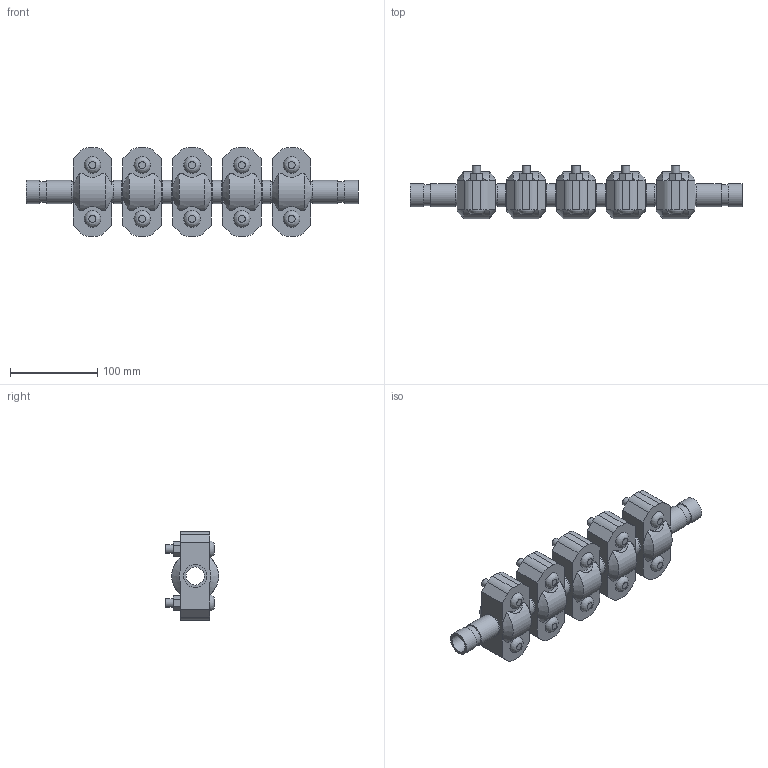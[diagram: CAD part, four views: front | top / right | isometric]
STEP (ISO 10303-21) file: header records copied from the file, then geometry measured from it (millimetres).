
FILE_DESCRIPTION(/* description */ ('VIC EXPANSION JOINT 5 COUPLINGS COMPRESSED STYLE 155 (OGS)','CAx-IF Rec.Pracs.---Representation and Presentation of Product Manufacturing Information (PMI)---4.0---2014-10-13'),/* implementation_level */ '2;1');
FILE_NAME(/* name */ 'C:\Users\kkamble\AppData\Roaming\Autodesk\ApplicationPlugins\Victaulic.Temp\A136\Victaulic_IPS_Expansion Joint_Compressed_5 Couplings_Style 155 (OGS)_0.75 (20).stp',/* time_stamp */ '2021-06-27T00:29:03+02:00',/* author */ ('kkamble'),/* organization */ ('Victaulic'),/* preprocessor_version */ 'ST-DEVELOPER v17.2',/* originating_system */ 'Autodesk Inventor 2019',/* authorisation */ '');
FILE_SCHEMA (('AP242_MANAGED_MODEL_BASED_3D_ENGINEERING_MIM_LF { 1 0 10303 442 1 1 4 }'));
Length unit declared in the file: inch
Products named in the file (4): 155-0.75; Nipple-0.75; Nipple-0.75_1; 077-0.75
Assembly tree (11 placements, depth 2):
  155-0.75
    Nipple-0.75  x2
    Nipple-0.75_1  x4
    077-0.75  x5
Bounding box: 381 x 61.1 x 101.6 mm (x, y, z)
Volume: 775127.2 mm3; surface area: 197067 mm2
Topology: 11 solids, 21 shells, 357 faces, 875 edges, 614 vertices
Faces by surface type: plane 206, cylinder 121, cone 20, bspline 10
Full cylindrical faces by diameter (mm): 9.525 x20, 11.43 x10, 20.93 x6, 23.825 x12, 26.67 x23
Entity records: 2907 total; most frequent: CARTESIAN_POINT 573, DIRECTION 467, ORIENTED_EDGE 398, EDGE_CURVE 199, AXIS2_PLACEMENT_3D 186, VERTEX_POINT 142, EDGE_LOOP 105, LINE 95
